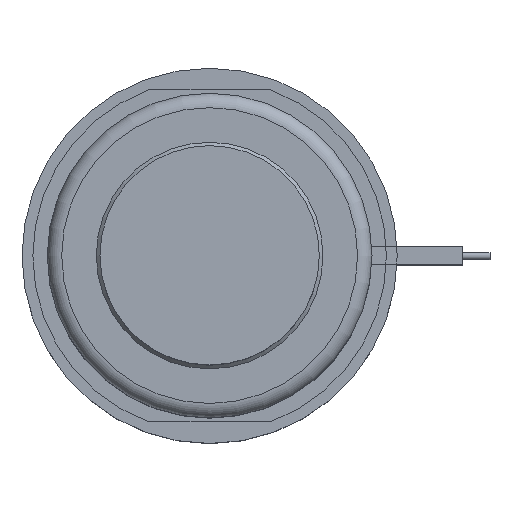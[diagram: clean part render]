
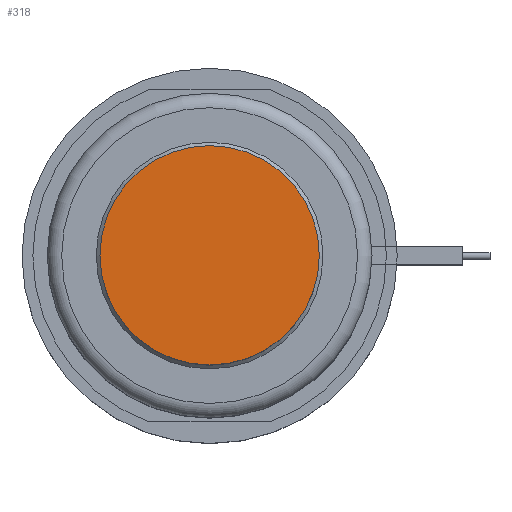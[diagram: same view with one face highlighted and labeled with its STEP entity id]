
A CAD part, top view. The second image highlights one B-rep face of the part: STEP entity #318.
In plain terms, the highlighted planar face has unit normal (0, 0, 1).
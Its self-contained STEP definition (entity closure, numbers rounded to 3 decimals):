
#228=PLANE('',#1291);
#318=ADVANCED_FACE('',(#487),#228,.F.);
#487=FACE_OUTER_BOUND('',#567,.T.);
#567=EDGE_LOOP('',(#707));
#707=ORIENTED_EDGE('',*,*,#1069,.F.);
#963=VERTEX_POINT('',#1847);
#1069=EDGE_CURVE('',#963,#963,#1202,.T.);
#1202=CIRCLE('',#1290,15.2);
#1290=AXIS2_PLACEMENT_3D('',#1846,#1483,#1484);
#1291=AXIS2_PLACEMENT_3D('',#1848,#1485,#1486);
#1483=DIRECTION('',(0.,0.,-1.));
#1484=DIRECTION('',(-1.,0.,0.));
#1485=DIRECTION('',(0.,0.,-1.));
#1486=DIRECTION('',(-1.,0.,0.));
#1846=CARTESIAN_POINT('',(0.,0.,18.));
#1847=CARTESIAN_POINT('',(-15.2,0.,18.));
#1848=CARTESIAN_POINT('',(0.,0.,18.));
